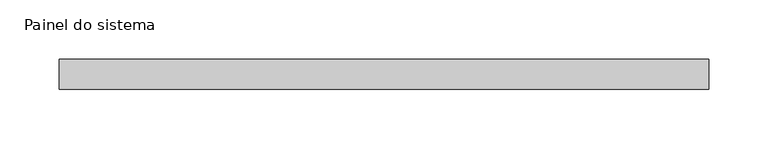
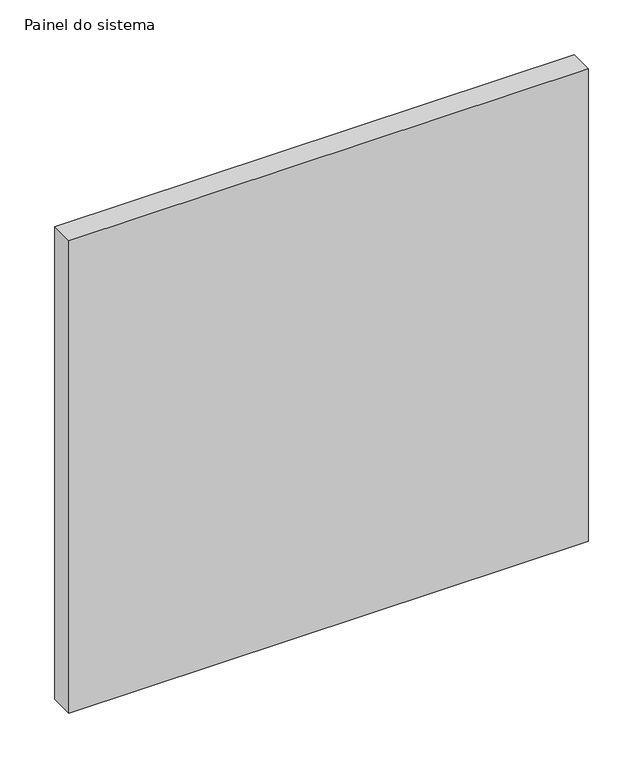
"""IFC4 building model written with IfcOpenShell, lengths in millimetres: plate geometry, Painel do sistema : Envidraçado."""

from ifc_helpers import new_model, si_unit, origin, origin_with_axes, place, context, project, spatial, polyline, outline, extrude, source, transform, mapped, element, save


def painel_do_sistema_907bb133(model_context):
    return source(origin(), model_context, "Body", "SweptSolid", [
        extrude(outline(polyline([(272.9166667, 24.5), (-272.9166667, 24.5), (-272.9166667, 49.5), (272.9166667, 49.5), (272.9166667, 24.5)])), origin_with_axes(), (0.0, 0.0, 1.0), 525.0),
    ])


if __name__ == "__main__":
    model = new_model("IFC4")
    model_context = context("Model", 3, world=origin())
    ifc_project = project(units=[si_unit("LENGTHUNIT", "METRE", prefix="MILLI")], contexts=[model_context])
    site = spatial("IfcSite", under=ifc_project)
    building = spatial("IfcBuilding", under=site)
    placement = place(None, origin())
    painel_do_sistema_shape = painel_do_sistema_907bb133(model_context)
    element("IfcPlate", 1, ObjectType="Painel do sistema : Envidraçado", at=placement, inside=building, context=model_context, shape_type="MappedRepresentation", body=[
        mapped(painel_do_sistema_shape, transform((0.0, 0.0, 0.0), x_axis=(1.0, 0.0, 0.0), y_axis=(0.0, 1.0, 0.0), z_axis=(0.0, 0.0, 1.0))),
    ])
    save(model, "model.ifc")
